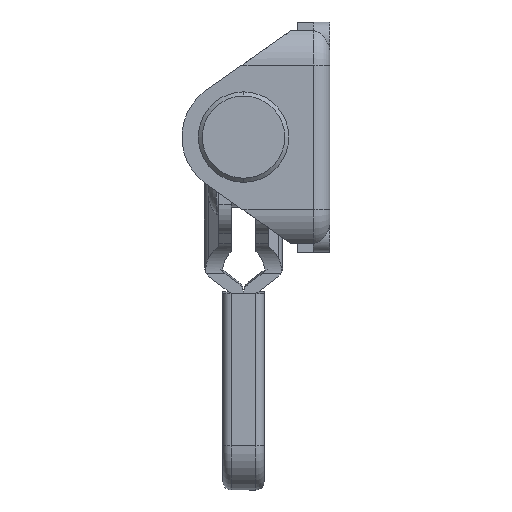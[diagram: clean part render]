
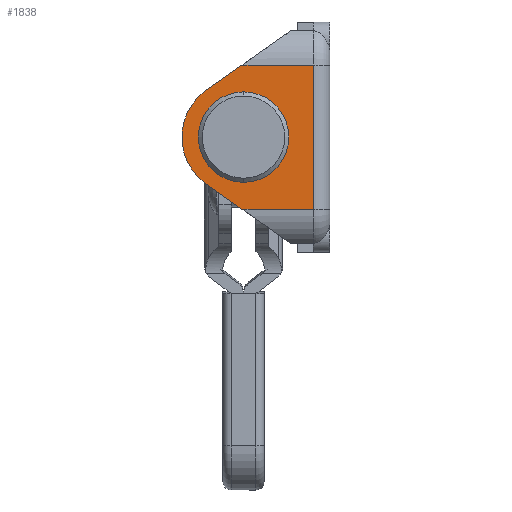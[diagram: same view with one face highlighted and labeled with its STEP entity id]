
A CAD part, left-side view. The second image highlights one B-rep face of the part: STEP entity #1838.
In plain terms, the highlighted planar face has unit normal (-1, 0, 0).
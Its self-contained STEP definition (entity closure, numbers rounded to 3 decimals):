
#45 = VERTEX_POINT ( 'NONE', #3768 ) ;
#480 = VECTOR ( 'NONE', #5921, 1000. ) ;
#664 = CARTESIAN_POINT ( 'NONE',  ( -40., 7.634, 10.902 ) ) ;
#718 = ORIENTED_EDGE ( 'NONE', *, *, #8336, .T. ) ;
#735 = PLANE ( 'NONE',  #6996 ) ;
#1075 = AXIS2_PLACEMENT_3D ( 'NONE', #8452, #3957, #6126 ) ;
#1169 = EDGE_CURVE ( 'NONE', #7391, #4855, #4157, .T. ) ;
#1178 = CIRCLE ( 'NONE', #6540, 4.25 ) ;
#1331 = DIRECTION ( 'NONE',  ( 0., 0., -1. ) ) ;
#1418 = DIRECTION ( 'NONE',  ( 0., 0., 1. ) ) ;
#1430 = LINE ( 'NONE', #9476, #5363 ) ;
#1513 = EDGE_CURVE ( 'NONE', #3146, #3948, #1430, .T. ) ;
#1740 = VERTEX_POINT ( 'NONE', #4174 ) ;
#1838 = ADVANCED_FACE ( 'NONE', ( #2180, #7319 ), #735, .F. ) ;
#1887 = VERTEX_POINT ( 'NONE', #2273 ) ;
#1969 = ORIENTED_EDGE ( 'NONE', *, *, #6222, .F. ) ;
#1985 = EDGE_CURVE ( 'NONE', #1740, #2762, #1178, .T. ) ;
#1992 = CIRCLE ( 'NONE', #1075, 4.25 ) ;
#2062 = AXIS2_PLACEMENT_3D ( 'NONE', #7179, #5838, #6422 ) ;
#2180 = FACE_BOUND ( 'NONE', #9468, .T. ) ;
#2273 = CARTESIAN_POINT ( 'NONE',  ( -40., 2., -8.76 ) ) ;
#2344 = ORIENTED_EDGE ( 'NONE', *, *, #1169, .F. ) ;
#2544 = CARTESIAN_POINT ( 'NONE',  ( -40., 15.015, 5.734 ) ) ;
#2734 = EDGE_LOOP ( 'NONE', ( #3959, #718, #9354, #2344, #7414, #7511 ) ) ;
#2762 = VERTEX_POINT ( 'NONE', #9279 ) ;
#3013 = LINE ( 'NONE', #7871, #4028 ) ;
#3118 = VECTOR ( 'NONE', #3640, 1000. ) ;
#3146 = VERTEX_POINT ( 'NONE', #6229 ) ;
#3570 = CARTESIAN_POINT ( 'NONE',  ( -40., 10.5, 0. ) ) ;
#3594 = EDGE_CURVE ( 'NONE', #7391, #3146, #6981, .T. ) ;
#3640 = DIRECTION ( 'NONE',  ( 0., -1., 0. ) ) ;
#3681 = CARTESIAN_POINT ( 'NONE',  ( -40., 18., 8.76 ) ) ;
#3768 = CARTESIAN_POINT ( 'NONE',  ( -40., 2., 8.76 ) ) ;
#3948 = VERTEX_POINT ( 'NONE', #6908 ) ;
#3957 = DIRECTION ( 'NONE',  ( -1., 0., 0. ) ) ;
#3959 = ORIENTED_EDGE ( 'NONE', *, *, #8275, .T. ) ;
#4028 = VECTOR ( 'NONE', #1418, 1000. ) ;
#4157 = LINE ( 'NONE', #664, #480 ) ;
#4174 = CARTESIAN_POINT ( 'NONE',  ( -40., 10.5, 4.25 ) ) ;
#4249 = DIRECTION ( 'NONE',  ( 0., 0., 1. ) ) ;
#4426 = CARTESIAN_POINT ( 'NONE',  ( -40., 10.694, 8.76 ) ) ;
#4500 = VECTOR ( 'NONE', #4507, 1000. ) ;
#4507 = DIRECTION ( 'NONE',  ( 0., -1., 0. ) ) ;
#4855 = VERTEX_POINT ( 'NONE', #4426 ) ;
#5078 = CARTESIAN_POINT ( 'NONE',  ( -40., 18., 8.76 ) ) ;
#5275 = LINE ( 'NONE', #8188, #3118 ) ;
#5363 = VECTOR ( 'NONE', #8771, 1000. ) ;
#5838 = DIRECTION ( 'NONE',  ( -1., 0., 0. ) ) ;
#5921 = DIRECTION ( 'NONE',  ( 0., -0.819, 0.574 ) ) ;
#6126 = DIRECTION ( 'NONE',  ( 0., 0., 1. ) ) ;
#6222 = EDGE_CURVE ( 'NONE', #2762, #1740, #1992, .T. ) ;
#6229 = CARTESIAN_POINT ( 'NONE',  ( -40., 15.015, -5.734 ) ) ;
#6422 = DIRECTION ( 'NONE',  ( 0., 0., 1. ) ) ;
#6540 = AXIS2_PLACEMENT_3D ( 'NONE', #3570, #7172, #4249 ) ;
#6615 = DIRECTION ( 'NONE',  ( 1., 0., 0. ) ) ;
#6908 = CARTESIAN_POINT ( 'NONE',  ( -40., 10.694, -8.76 ) ) ;
#6930 = ORIENTED_EDGE ( 'NONE', *, *, #1985, .F. ) ;
#6981 = CIRCLE ( 'NONE', #2062, 7. ) ;
#6996 = AXIS2_PLACEMENT_3D ( 'NONE', #3681, #6615, #1331 ) ;
#7172 = DIRECTION ( 'NONE',  ( -1., 0., 0. ) ) ;
#7179 = CARTESIAN_POINT ( 'NONE',  ( -40., 11., 0. ) ) ;
#7319 = FACE_OUTER_BOUND ( 'NONE', #2734, .T. ) ;
#7391 = VERTEX_POINT ( 'NONE', #2544 ) ;
#7414 = ORIENTED_EDGE ( 'NONE', *, *, #3594, .T. ) ;
#7468 = LINE ( 'NONE', #5078, #4500 ) ;
#7511 = ORIENTED_EDGE ( 'NONE', *, *, #1513, .T. ) ;
#7871 = CARTESIAN_POINT ( 'NONE',  ( -40., 2., 8.76 ) ) ;
#8188 = CARTESIAN_POINT ( 'NONE',  ( -40., 18., -8.76 ) ) ;
#8254 = EDGE_CURVE ( 'NONE', #4855, #45, #7468, .T. ) ;
#8275 = EDGE_CURVE ( 'NONE', #3948, #1887, #5275, .T. ) ;
#8336 = EDGE_CURVE ( 'NONE', #1887, #45, #3013, .T. ) ;
#8452 = CARTESIAN_POINT ( 'NONE',  ( -40., 10.5, 0. ) ) ;
#8771 = DIRECTION ( 'NONE',  ( 0., -0.819, -0.574 ) ) ;
#9279 = CARTESIAN_POINT ( 'NONE',  ( -40., 10.5, -4.25 ) ) ;
#9354 = ORIENTED_EDGE ( 'NONE', *, *, #8254, .F. ) ;
#9468 = EDGE_LOOP ( 'NONE', ( #6930, #1969 ) ) ;
#9476 = CARTESIAN_POINT ( 'NONE',  ( -40., 7.634, -10.902 ) ) ;
